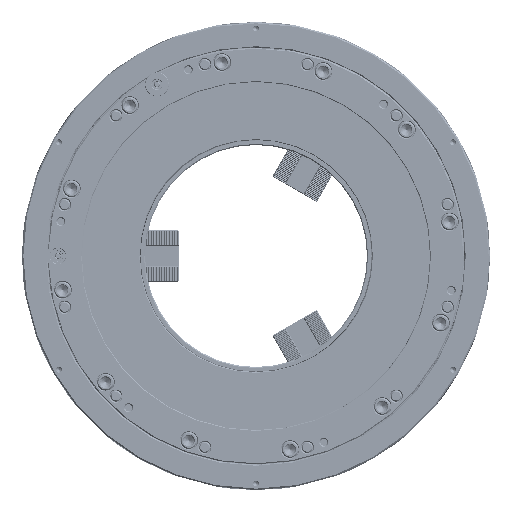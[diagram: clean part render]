
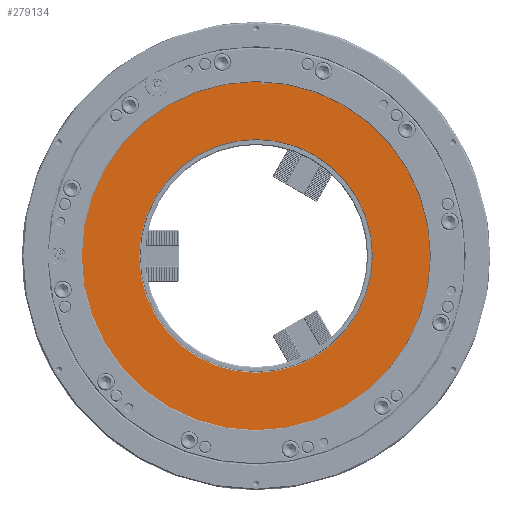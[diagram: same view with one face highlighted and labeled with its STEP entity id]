
A CAD part, left-side view. The second image highlights one B-rep face of the part: STEP entity #279134.
In plain terms, the highlighted planar face has unit normal (-1, 0, 0).
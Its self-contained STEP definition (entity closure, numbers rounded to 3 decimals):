
#722 = ORIENTED_EDGE ( 'NONE', *, *, #171694, .F. ) ;
#13105 = CARTESIAN_POINT ( 'NONE',  ( -275., 0., 0. ) ) ;
#15396 = EDGE_CURVE ( 'NONE', #209673, #146107, #279854, .T. ) ;
#18561 = LINE ( 'NONE', #44075, #255051 ) ;
#24699 = DIRECTION ( 'NONE',  ( 0., 0., -1. ) ) ;
#25422 = CARTESIAN_POINT ( 'NONE',  ( -275., 0., 0. ) ) ;
#43481 = EDGE_LOOP ( 'NONE', ( #197126, #76081 ) ) ;
#44075 = CARTESIAN_POINT ( 'NONE',  ( -275., 5.462, -8.676 ) ) ;
#57425 = AXIS2_PLACEMENT_3D ( 'NONE', #148573, #306882, #73611 ) ;
#57704 = DIRECTION ( 'NONE',  ( 0., 0., -1. ) ) ;
#58911 = CARTESIAN_POINT ( 'NONE',  ( -275., 0., -255. ) ) ;
#59198 = DIRECTION ( 'NONE',  ( 1., 0., 0. ) ) ;
#63864 = LINE ( 'NONE', #91041, #221073 ) ;
#65356 = AXIS2_PLACEMENT_3D ( 'NONE', #241519, #84917, #57704 ) ;
#70438 = VERTEX_POINT ( 'NONE', #254097 ) ;
#73611 = DIRECTION ( 'NONE',  ( 0., 0., -1. ) ) ;
#76081 = ORIENTED_EDGE ( 'NONE', *, *, #312683, .T. ) ;
#76496 = DIRECTION ( 'NONE',  ( 1., 0., 0. ) ) ;
#84917 = DIRECTION ( 'NONE',  ( 1., 0., 0. ) ) ;
#90627 = CARTESIAN_POINT ( 'NONE',  ( -275., -4.525, -9.199 ) ) ;
#91041 = CARTESIAN_POINT ( 'NONE',  ( -275., 157.317, 261.091 ) ) ;
#93006 = CARTESIAN_POINT ( 'NONE',  ( -275., 0., 255. ) ) ;
#95279 = VERTEX_POINT ( 'NONE', #108884 ) ;
#101138 = ORIENTED_EDGE ( 'NONE', *, *, #153019, .F. ) ;
#101315 = CARTESIAN_POINT ( 'NONE',  ( -275., 0., 0. ) ) ;
#108884 = CARTESIAN_POINT ( 'NONE',  ( -275., -18.208, 251.892 ) ) ;
#115386 = CIRCLE ( 'NONE', #305720, 171. ) ;
#119051 = DIRECTION ( 'NONE',  ( 0., 0.052, -0.999 ) ) ;
#125758 = EDGE_CURVE ( 'NONE', #333477, #70438, #18561, .T. ) ;
#127973 = ORIENTED_EDGE ( 'NONE', *, *, #186098, .F. ) ;
#132906 = CARTESIAN_POINT ( 'NONE',  ( -275., 0., -171. ) ) ;
#134984 = CARTESIAN_POINT ( 'NONE',  ( -275., -8.35, 254.863 ) ) ;
#139492 = CIRCLE ( 'NONE', #313570, 255. ) ;
#143857 = DIRECTION ( 'NONE',  ( 0., -0.999, -0.052 ) ) ;
#146107 = VERTEX_POINT ( 'NONE', #132906 ) ;
#148573 = CARTESIAN_POINT ( 'NONE',  ( -275., 0., 0. ) ) ;
#153019 = EDGE_CURVE ( 'NONE', #322361, #172579, #139492, .T. ) ;
#171694 = EDGE_CURVE ( 'NONE', #70438, #95279, #63864, .T. ) ;
#172579 = VERTEX_POINT ( 'NONE', #58911 ) ;
#176889 = ORIENTED_EDGE ( 'NONE', *, *, #247162, .F. ) ;
#182856 = AXIS2_PLACEMENT_3D ( 'NONE', #275316, #251426, #331467 ) ;
#186098 = EDGE_CURVE ( 'NONE', #172579, #316824, #237508, .T. ) ;
#190264 = DIRECTION ( 'NONE',  ( 0., 0., -1. ) ) ;
#194494 = DIRECTION ( 'NONE',  ( 0., -0.052, 0.999 ) ) ;
#197126 = ORIENTED_EDGE ( 'NONE', *, *, #15396, .T. ) ;
#206855 = DIRECTION ( 'NONE',  ( 1., 0., 0. ) ) ;
#209061 = AXIS2_PLACEMENT_3D ( 'NONE', #101315, #206855, #24699 ) ;
#209673 = VERTEX_POINT ( 'NONE', #272275 ) ;
#212187 = CIRCLE ( 'NONE', #65356, 255. ) ;
#214621 = ORIENTED_EDGE ( 'NONE', *, *, #125758, .F. ) ;
#221073 = VECTOR ( 'NONE', #143857, 1000. ) ;
#223524 = EDGE_LOOP ( 'NONE', ( #176889, #722, #214621, #224239, #127973, #101138 ) ) ;
#224239 = ORIENTED_EDGE ( 'NONE', *, *, #307599, .F. ) ;
#237508 = CIRCLE ( 'NONE', #57425, 255. ) ;
#241519 = CARTESIAN_POINT ( 'NONE',  ( -275., 0., 0. ) ) ;
#247162 = EDGE_CURVE ( 'NONE', #95279, #322361, #300102, .T. ) ;
#251426 = DIRECTION ( 'NONE',  ( -1., 0., 0. ) ) ;
#254097 = CARTESIAN_POINT ( 'NONE',  ( -275., -8.222, 252.416 ) ) ;
#255051 = VECTOR ( 'NONE', #119051, 1000. ) ;
#267195 = VECTOR ( 'NONE', #194494, 1000. ) ;
#272275 = CARTESIAN_POINT ( 'NONE',  ( -275., 0., 171. ) ) ;
#275316 = CARTESIAN_POINT ( 'NONE',  ( -275., 171., 0. ) ) ;
#278717 = PLANE ( 'NONE',  #182856 ) ;
#279134 = ADVANCED_FACE ( 'NONE', ( #305919, #304252 ), #278717, .T. ) ;
#279854 = CIRCLE ( 'NONE', #209061, 171. ) ;
#282590 = DIRECTION ( 'NONE',  ( 0., 0., -1. ) ) ;
#300102 = LINE ( 'NONE', #90627, #267195 ) ;
#304252 = FACE_BOUND ( 'NONE', #43481, .T. ) ;
#305720 = AXIS2_PLACEMENT_3D ( 'NONE', #25422, #76496, #282590 ) ;
#305919 = FACE_OUTER_BOUND ( 'NONE', #223524, .T. ) ;
#306022 = CARTESIAN_POINT ( 'NONE',  ( -275., -18.336, 254.34 ) ) ;
#306882 = DIRECTION ( 'NONE',  ( 1., 0., 0. ) ) ;
#307599 = EDGE_CURVE ( 'NONE', #316824, #333477, #212187, .T. ) ;
#312683 = EDGE_CURVE ( 'NONE', #146107, #209673, #115386, .T. ) ;
#313570 = AXIS2_PLACEMENT_3D ( 'NONE', #13105, #59198, #190264 ) ;
#316824 = VERTEX_POINT ( 'NONE', #93006 ) ;
#322361 = VERTEX_POINT ( 'NONE', #306022 ) ;
#331467 = DIRECTION ( 'NONE',  ( 0., 0., 1. ) ) ;
#333477 = VERTEX_POINT ( 'NONE', #134984 ) ;
